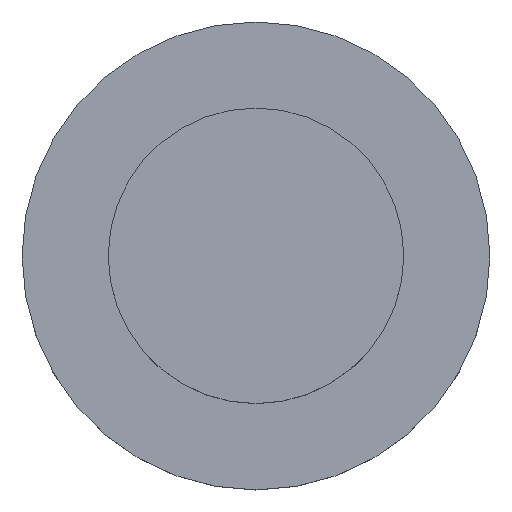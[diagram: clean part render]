
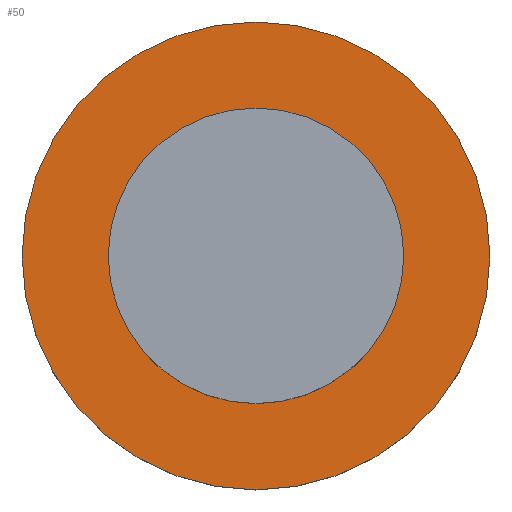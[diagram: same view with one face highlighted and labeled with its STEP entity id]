
A CAD part, top view. The second image highlights one B-rep face of the part: STEP entity #50.
In plain terms, the highlighted planar face has unit normal (0, 0, 1).
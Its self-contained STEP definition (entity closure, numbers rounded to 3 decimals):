
#22 = VERTEX_POINT('',#23);
#23 = CARTESIAN_POINT('',(41.2,44.5,32.8));
#39 = EDGE_CURVE('',#22,#22,#40,.T.);
#40 = CIRCLE('',#41,1.2);
#41 = AXIS2_PLACEMENT_3D('',#42,#43,#44);
#42 = CARTESIAN_POINT('',(40.,44.5,32.8));
#43 = DIRECTION('',(0.,0.,1.));
#44 = DIRECTION('',(1.,0.,-0.));
#50 = ADVANCED_FACE('',(#51,#62),#65,.T.);
#51 = FACE_BOUND('',#52,.T.);
#52 = EDGE_LOOP('',(#53));
#53 = ORIENTED_EDGE('',*,*,#54,.T.);
#54 = EDGE_CURVE('',#55,#55,#57,.T.);
#55 = VERTEX_POINT('',#56);
#56 = CARTESIAN_POINT('',(41.9,44.5,32.8));
#57 = CIRCLE('',#58,1.9);
#58 = AXIS2_PLACEMENT_3D('',#59,#60,#61);
#59 = CARTESIAN_POINT('',(40.,44.5,32.8));
#60 = DIRECTION('',(0.,0.,1.));
#61 = DIRECTION('',(1.,0.,-0.));
#62 = FACE_BOUND('',#63,.T.);
#63 = EDGE_LOOP('',(#64));
#64 = ORIENTED_EDGE('',*,*,#39,.F.);
#65 = PLANE('',#66);
#66 = AXIS2_PLACEMENT_3D('',#67,#68,#69);
#67 = CARTESIAN_POINT('',(40.,44.5,32.8));
#68 = DIRECTION('',(0.,0.,1.));
#69 = DIRECTION('',(1.,0.,-0.));
